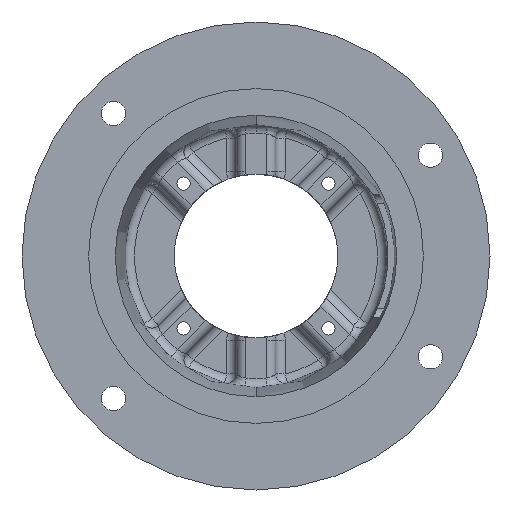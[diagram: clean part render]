
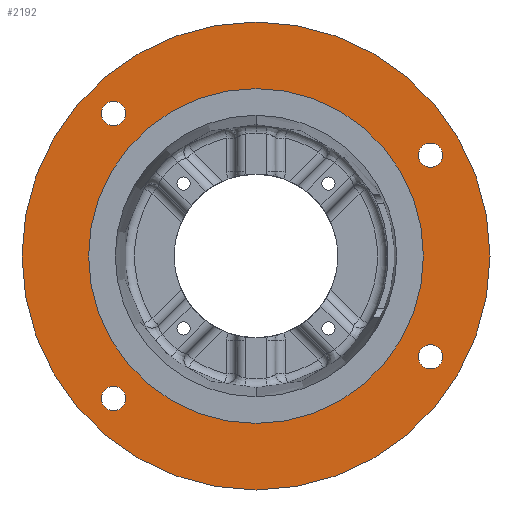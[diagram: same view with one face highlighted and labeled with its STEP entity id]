
A CAD part, front view. The second image highlights one B-rep face of the part: STEP entity #2192.
In plain terms, the highlighted planar face has unit normal (0, -1, 0).
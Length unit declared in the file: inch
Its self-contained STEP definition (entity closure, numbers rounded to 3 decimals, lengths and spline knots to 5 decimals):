
#16 = CIRCLE ( 'NONE', #2148, 0.23437 ) ;
#96 = DIRECTION ( 'NONE',  ( 0., -1., 0. ) ) ;
#168 = EDGE_CURVE ( 'NONE', #3366, #5359, #1567, .T. ) ;
#199 = EDGE_CURVE ( 'NONE', #482, #3257, #4024, .T. ) ;
#255 = DIRECTION ( 'NONE',  ( 0., 0., -1. ) ) ;
#330 = EDGE_CURVE ( 'NONE', #5639, #5527, #2405, .T. ) ;
#350 = EDGE_LOOP ( 'NONE', ( #5924, #5726 ) ) ;
#366 = DIRECTION ( 'NONE',  ( 0., 0., -1. ) ) ;
#404 = FACE_BOUND ( 'NONE', #5514, .T. ) ;
#421 = EDGE_CURVE ( 'NONE', #1640, #2945, #5777, .T. ) ;
#477 = ORIENTED_EDGE ( 'NONE', *, *, #199, .F. ) ;
#482 = VERTEX_POINT ( 'NONE', #4768 ) ;
#496 = PLANE ( 'NONE',  #5101 ) ;
#637 = DIRECTION ( 'NONE',  ( 0., -1., 0. ) ) ;
#727 = CARTESIAN_POINT ( 'NONE',  ( 3.35585, 0., -1.70312 ) ) ;
#731 = CIRCLE ( 'NONE', #1616, 4.5 ) ;
#870 = FACE_BOUND ( 'NONE', #910, .T. ) ;
#910 = EDGE_LOOP ( 'NONE', ( #5297, #6126 ) ) ;
#946 = CIRCLE ( 'NONE', #3316, 0.23438 ) ;
#996 = DIRECTION ( 'NONE',  ( 0., 1., 0. ) ) ;
#1031 = VERTEX_POINT ( 'NONE', #4276 ) ;
#1040 = ORIENTED_EDGE ( 'NONE', *, *, #330, .F. ) ;
#1066 = EDGE_LOOP ( 'NONE', ( #3293, #5967 ) ) ;
#1122 = DIRECTION ( 'NONE',  ( 0., -1., 0. ) ) ;
#1128 = EDGE_CURVE ( 'NONE', #1031, #1883, #1144, .T. ) ;
#1144 = CIRCLE ( 'NONE', #5176, 0.23438 ) ;
#1227 = CARTESIAN_POINT ( 'NONE',  ( 3.35585, 0., -1.9375 ) ) ;
#1243 = EDGE_CURVE ( 'NONE', #5359, #3366, #5614, .T. ) ;
#1270 = CARTESIAN_POINT ( 'NONE',  ( -2.74004, 0., -2.74004 ) ) ;
#1385 = CARTESIAN_POINT ( 'NONE',  ( 3.35585, 0., 1.9375 ) ) ;
#1459 = AXIS2_PLACEMENT_3D ( 'NONE', #3577, #637, #4078 ) ;
#1502 = CARTESIAN_POINT ( 'NONE',  ( 3.35585, 0., 1.70313 ) ) ;
#1559 = EDGE_LOOP ( 'NONE', ( #477, #2883 ) ) ;
#1567 = CIRCLE ( 'NONE', #4552, 0.23438 ) ;
#1583 = EDGE_CURVE ( 'NONE', #3616, #3653, #731, .T. ) ;
#1616 = AXIS2_PLACEMENT_3D ( 'NONE', #4657, #1690, #5152 ) ;
#1640 = VERTEX_POINT ( 'NONE', #6168 ) ;
#1690 = DIRECTION ( 'NONE',  ( 0., -1., 0. ) ) ;
#1712 = FACE_BOUND ( 'NONE', #1066, .T. ) ;
#1718 = DIRECTION ( 'NONE',  ( 0., 0., -1. ) ) ;
#1750 = DIRECTION ( 'NONE',  ( 0., 0., -1. ) ) ;
#1757 = CARTESIAN_POINT ( 'NONE',  ( 0., 0., 0. ) ) ;
#1773 = CIRCLE ( 'NONE', #6218, 3.2195 ) ;
#1873 = DIRECTION ( 'NONE',  ( 0., 0., -1. ) ) ;
#1883 = VERTEX_POINT ( 'NONE', #727 ) ;
#1926 = ORIENTED_EDGE ( 'NONE', *, *, #421, .F. ) ;
#1936 = EDGE_CURVE ( 'NONE', #5527, #5639, #16, .T. ) ;
#2065 = AXIS2_PLACEMENT_3D ( 'NONE', #1385, #4840, #1873 ) ;
#2068 = CARTESIAN_POINT ( 'NONE',  ( -2.74004, 0., 2.74004 ) ) ;
#2148 = AXIS2_PLACEMENT_3D ( 'NONE', #1270, #4711, #1750 ) ;
#2191 = AXIS2_PLACEMENT_3D ( 'NONE', #1227, #4679, #1718 ) ;
#2192 = ADVANCED_FACE ( 'NONE', ( #870, #1712, #404, #3013, #5498, #4179 ), #496, .F. ) ;
#2245 = DIRECTION ( 'NONE',  ( 0., 0., -1. ) ) ;
#2405 = CIRCLE ( 'NONE', #1459, 0.23437 ) ;
#2470 = EDGE_CURVE ( 'NONE', #3257, #482, #946, .T. ) ;
#2567 = DIRECTION ( 'NONE',  ( 0., 0., -1. ) ) ;
#2703 = CARTESIAN_POINT ( 'NONE',  ( 3.35585, 0., -1.9375 ) ) ;
#2765 = AXIS2_PLACEMENT_3D ( 'NONE', #1757, #5214, #2245 ) ;
#2883 = ORIENTED_EDGE ( 'NONE', *, *, #2470, .F. ) ;
#2888 = EDGE_CURVE ( 'NONE', #3653, #3616, #5108, .T. ) ;
#2945 = VERTEX_POINT ( 'NONE', #4119 ) ;
#3013 = FACE_BOUND ( 'NONE', #1559, .T. ) ;
#3038 = CARTESIAN_POINT ( 'NONE',  ( 3.35585, 0., 1.9375 ) ) ;
#3199 = DIRECTION ( 'NONE',  ( 0., 0., -1. ) ) ;
#3202 = DIRECTION ( 'NONE',  ( 0., -1., 0. ) ) ;
#3257 = VERTEX_POINT ( 'NONE', #4388 ) ;
#3293 = ORIENTED_EDGE ( 'NONE', *, *, #1128, .F. ) ;
#3314 = DIRECTION ( 'NONE',  ( 0., -1., 0. ) ) ;
#3316 = AXIS2_PLACEMENT_3D ( 'NONE', #6294, #3314, #366 ) ;
#3366 = VERTEX_POINT ( 'NONE', #3967 ) ;
#3441 = CARTESIAN_POINT ( 'NONE',  ( -4.5, 0., 0. ) ) ;
#3532 = DIRECTION ( 'NONE',  ( 0., 0., -1. ) ) ;
#3577 = CARTESIAN_POINT ( 'NONE',  ( -2.74004, 0., -2.74004 ) ) ;
#3616 = VERTEX_POINT ( 'NONE', #4587 ) ;
#3653 = VERTEX_POINT ( 'NONE', #4104 ) ;
#3787 = ORIENTED_EDGE ( 'NONE', *, *, #5545, .F. ) ;
#3967 = CARTESIAN_POINT ( 'NONE',  ( 3.35585, 0., 2.17188 ) ) ;
#4024 = CIRCLE ( 'NONE', #4894, 0.23438 ) ;
#4047 = CARTESIAN_POINT ( 'NONE',  ( -2.74004, 0., -2.50566 ) ) ;
#4060 = CARTESIAN_POINT ( 'NONE',  ( 0., 0., 0. ) ) ;
#4078 = DIRECTION ( 'NONE',  ( 0., 0., -1. ) ) ;
#4104 = CARTESIAN_POINT ( 'NONE',  ( 0., 0., -4.5 ) ) ;
#4119 = CARTESIAN_POINT ( 'NONE',  ( 0., 0., 3.2195 ) ) ;
#4179 = FACE_OUTER_BOUND ( 'NONE', #350, .T. ) ;
#4276 = CARTESIAN_POINT ( 'NONE',  ( 3.35585, 0., -2.17187 ) ) ;
#4315 = CARTESIAN_POINT ( 'NONE',  ( -2.74004, 0., -2.97441 ) ) ;
#4388 = CARTESIAN_POINT ( 'NONE',  ( -2.74004, 0., 2.97441 ) ) ;
#4450 = DIRECTION ( 'NONE',  ( 0., 0., 1. ) ) ;
#4552 = AXIS2_PLACEMENT_3D ( 'NONE', #3038, #96, #3532 ) ;
#4567 = DIRECTION ( 'NONE',  ( 0., 0., -1. ) ) ;
#4587 = CARTESIAN_POINT ( 'NONE',  ( 0., 0., 4.5 ) ) ;
#4657 = CARTESIAN_POINT ( 'NONE',  ( 0., 0., 0. ) ) ;
#4679 = DIRECTION ( 'NONE',  ( 0., -1., 0. ) ) ;
#4711 = DIRECTION ( 'NONE',  ( 0., -1., 0. ) ) ;
#4768 = CARTESIAN_POINT ( 'NONE',  ( -2.74004, 0., 2.50566 ) ) ;
#4840 = DIRECTION ( 'NONE',  ( 0., -1., 0. ) ) ;
#4881 = AXIS2_PLACEMENT_3D ( 'NONE', #4060, #1122, #4567 ) ;
#4894 = AXIS2_PLACEMENT_3D ( 'NONE', #2068, #5540, #2567 ) ;
#5005 = EDGE_LOOP ( 'NONE', ( #1926, #3787 ) ) ;
#5101 = AXIS2_PLACEMENT_3D ( 'NONE', #3441, #996, #4450 ) ;
#5108 = CIRCLE ( 'NONE', #4881, 4.5 ) ;
#5152 = DIRECTION ( 'NONE',  ( 0., 0., -1. ) ) ;
#5176 = AXIS2_PLACEMENT_3D ( 'NONE', #2703, #6172, #3199 ) ;
#5204 = ORIENTED_EDGE ( 'NONE', *, *, #1936, .F. ) ;
#5214 = DIRECTION ( 'NONE',  ( 0., -1., 0. ) ) ;
#5297 = ORIENTED_EDGE ( 'NONE', *, *, #1243, .F. ) ;
#5359 = VERTEX_POINT ( 'NONE', #1502 ) ;
#5418 = CIRCLE ( 'NONE', #2191, 0.23438 ) ;
#5498 = FACE_BOUND ( 'NONE', #5005, .T. ) ;
#5514 = EDGE_LOOP ( 'NONE', ( #1040, #5204 ) ) ;
#5527 = VERTEX_POINT ( 'NONE', #4047 ) ;
#5540 = DIRECTION ( 'NONE',  ( 0., -1., 0. ) ) ;
#5545 = EDGE_CURVE ( 'NONE', #2945, #1640, #1773, .T. ) ;
#5614 = CIRCLE ( 'NONE', #2065, 0.23438 ) ;
#5639 = VERTEX_POINT ( 'NONE', #4315 ) ;
#5726 = ORIENTED_EDGE ( 'NONE', *, *, #1583, .T. ) ;
#5777 = CIRCLE ( 'NONE', #2765, 3.2195 ) ;
#5924 = ORIENTED_EDGE ( 'NONE', *, *, #2888, .T. ) ;
#5967 = ORIENTED_EDGE ( 'NONE', *, *, #6224, .F. ) ;
#6126 = ORIENTED_EDGE ( 'NONE', *, *, #168, .F. ) ;
#6168 = CARTESIAN_POINT ( 'NONE',  ( 0., 0., -3.2195 ) ) ;
#6172 = DIRECTION ( 'NONE',  ( 0., -1., 0. ) ) ;
#6174 = CARTESIAN_POINT ( 'NONE',  ( 0., 0., 0. ) ) ;
#6218 = AXIS2_PLACEMENT_3D ( 'NONE', #6174, #3202, #255 ) ;
#6224 = EDGE_CURVE ( 'NONE', #1883, #1031, #5418, .T. ) ;
#6294 = CARTESIAN_POINT ( 'NONE',  ( -2.74004, 0., 2.74004 ) ) ;
